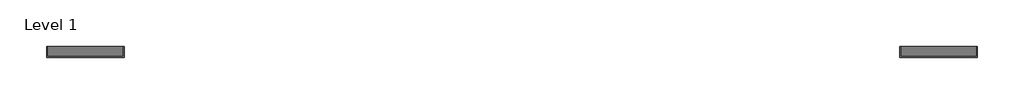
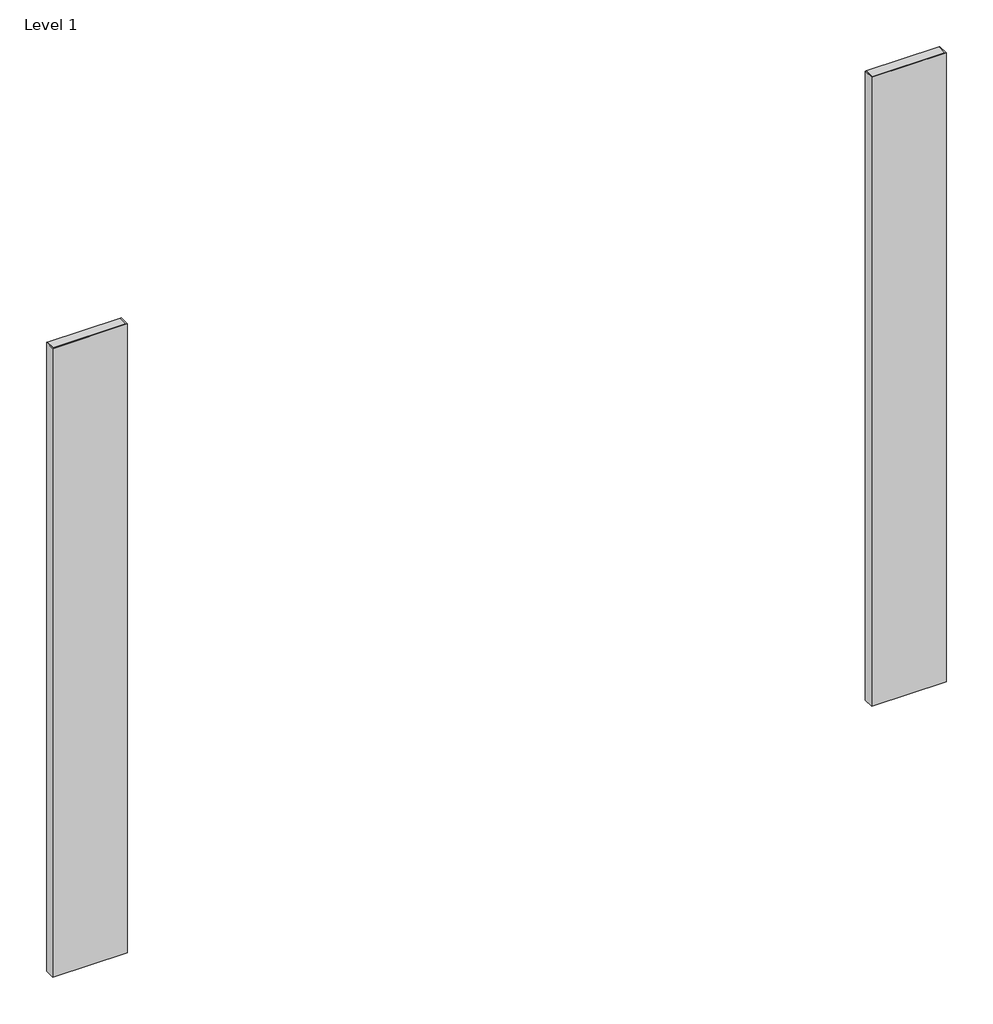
# One storey, incomplete: 2 proxies.
"""IFC4 building model written with IfcOpenShell, lengths in millimetres."""

from ifc_helpers import new_model, si_unit, origin, place, context, project, spatial, transform, mapped, element, save
from components import side_extension_panels_41801fd4

model = new_model("IFC4")

# Units and contexts
model_context = context("Model", 3, world=origin())
ifc_project = project(units=[si_unit("LENGTHUNIT", "METRE", prefix="MILLI")], contexts=[model_context])

# Site, building, storey
site = spatial("IfcSite", under=ifc_project)
building = spatial("IfcBuilding", under=site)
storey = spatial("IfcBuildingStorey", under=building, Name="Level 1", Elevation=0.0)

# Proxies
placement = place(None, origin())
side_extension_panels_shape = side_extension_panels_41801fd4(model_context)
element("IfcBuildingElementProxy", 1, Name="Spinneybeck_Valley : Side Extension Panels", ObjectType="Spinneybeck_Valley : Side Extension Panels", at=placement, inside=storey, context=model_context, shape_type="MappedRepresentation", body=[
    mapped(side_extension_panels_shape, transform((-9347.2111668, 1400.2325001, 134.3340037), x_axis=(1.0, 0.0, 0.0), y_axis=(0.0, 0.0, 1.0), z_axis=(0.0, -1.0, 0.0))),
])
element("IfcBuildingElementProxy", 2, Name="Spinneybeck_Valley : Side Extension Panels", ObjectType="Spinneybeck_Valley : Side Extension Panels", at=placement, inside=storey, context=model_context, shape_type="MappedRepresentation", body=[
    mapped(side_extension_panels_shape, transform((-12350.7111668, 1400.2325001, 134.3340037), x_axis=(1.0, 0.0, 0.0), y_axis=(0.0, 0.0, 1.0), z_axis=(0.0, -1.0, 0.0))),
])

save(model, "model.ifc")
